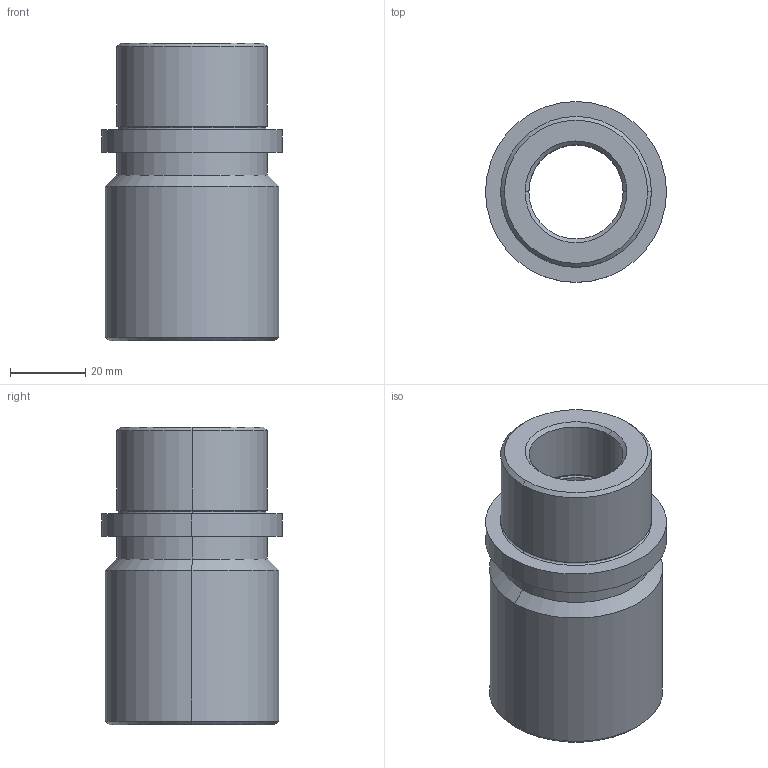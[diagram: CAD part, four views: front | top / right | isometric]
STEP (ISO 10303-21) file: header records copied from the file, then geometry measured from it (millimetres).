
FILE_DESCRIPTION (( 'STEP AP214' ), '1' );
FILE_NAME ('Casquillo SB500-25-79 b.STEP', '2019-01-10T13:30:16', ( '' ), ( '' ), 'SwSTEP 2.0', 'SolidWorks 2018', '' );
FILE_SCHEMA (( 'AUTOMOTIVE_DESIGN' ));
Length unit declared in the file: millimetre
Products named in the file (1): Casquillo SB500-25-79 b
Bounding box: 48 x 48 x 79 mm (x, y, z)
Volume: 80743 mm3; surface area: 20206 mm2
Topology: 1 solids, 1 shells, 40 faces, 80 edges, 44 vertices
Faces by surface type: cylinder 14, torus 12, cone 10, plane 4
Entity records: 1074 total; most frequent: DIRECTION 218, CARTESIAN_POINT 165, ORIENTED_EDGE 160, AXIS2_PLACEMENT_3D 97, EDGE_CURVE 80, CIRCLE 56, EDGE_LOOP 44, VERTEX_POINT 44
